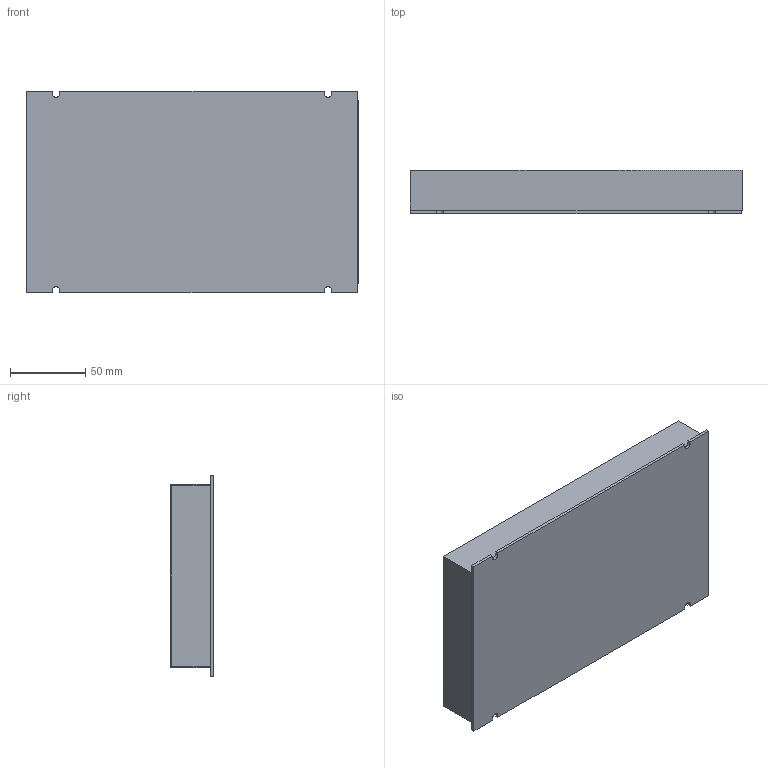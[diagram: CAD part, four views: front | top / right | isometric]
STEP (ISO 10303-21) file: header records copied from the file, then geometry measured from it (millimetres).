
FILE_DESCRIPTION (( 'STEP AP203' ), '1' );
FILE_NAME ('力为控制技术-3D模型-《PMC4000》.STEP', '2024-12-30T02:21:24', ( '' ), ( '' ), 'SwSTEP 2.0', 'SolidWorks 2020', '' );
FILE_SCHEMA (( 'CONFIG_CONTROL_DESIGN' ));
Length unit declared in the file: millimetre
Products named in the file (1): 力为控制技术-3D模型-《PMC4000》
Bounding box: 221 x 28.8 x 134 mm (x, y, z)
Volume: 94293.1 mm3; surface area: 145752 mm2
Topology: 9 solids, 9 shells, 151 faces, 396 edges, 264 vertices
Faces by surface type: plane 109, cylinder 42
Entity records: 4791 total; most frequent: CARTESIAN_POINT 812, ORIENTED_EDGE 792, DIRECTION 784, EDGE_CURVE 396, VECTOR 312, LINE 312, VERTEX_POINT 264, AXIS2_PLACEMENT_3D 236
